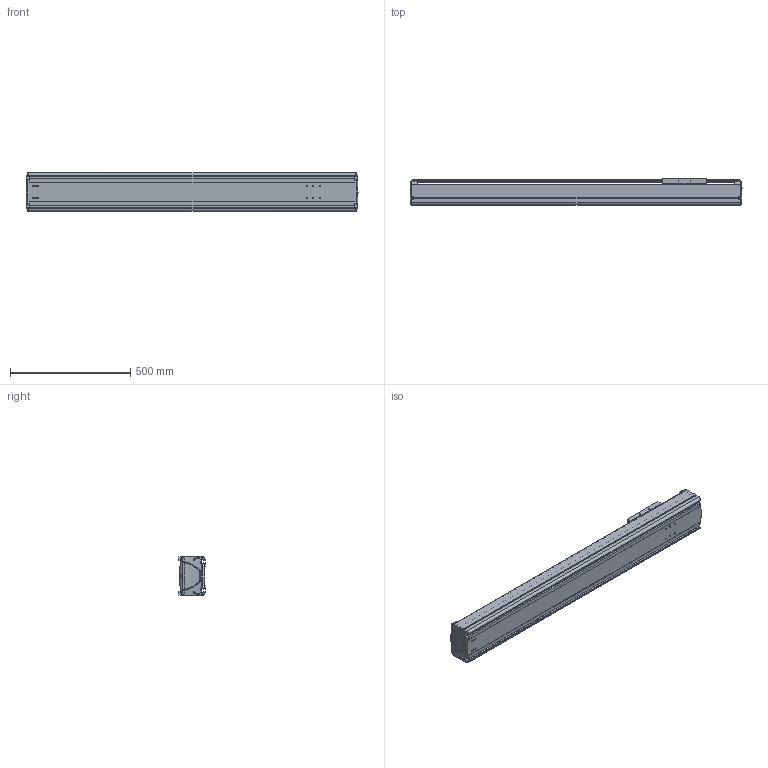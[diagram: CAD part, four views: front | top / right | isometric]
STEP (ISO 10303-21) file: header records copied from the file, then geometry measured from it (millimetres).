
FILE_DESCRIPTION((''),'2;1');
FILE_NAME('BE50G-ST-M_N-A0_IGS_PRT','2017-06-18T',(' '),(''),'PRO/ENGINEER BY PARAMETRIC TECHNOLOGY CORPORATION, 2015030','PRO/ENGINEER BY PARAMETRIC TECHNOLOGY CORPORATION, 2015030','');
FILE_SCHEMA(('CONFIG_CONTROL_DESIGN'));
Length unit declared in the file: millimetre
Products named in the file (1): BE50G-ST-M_N-A0_IGS_PRT
Bounding box: 1379.98 x 110 x 160 mm (x, y, z)
Volume: 6120451.2 mm3; surface area: 2090729.8 mm2
Topology: 2 solids, 87 shells, 1644 faces, 4365 edges, 2798 vertices
Faces by surface type: cylinder 718, plane 625, bspline 102, torus 87, cone 72, sphere 40
Entity records: 56588 total; most frequent: CARTESIAN_POINT 16249, ORIENTED_EDGE 8324, DIRECTION 8240, EDGE_CURVE 4332, AXIS2_PLACEMENT_3D 3074, VERTEX_POINT 2787, VECTOR 2092, LINE 2092
